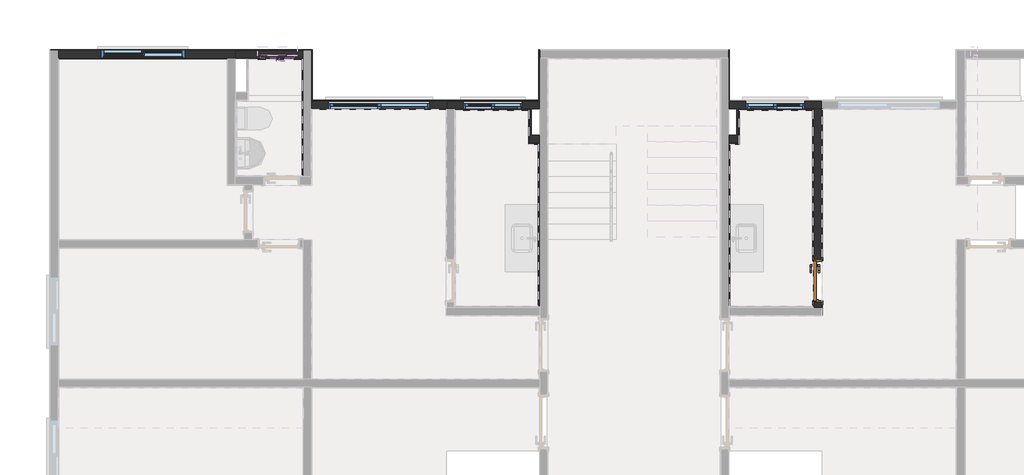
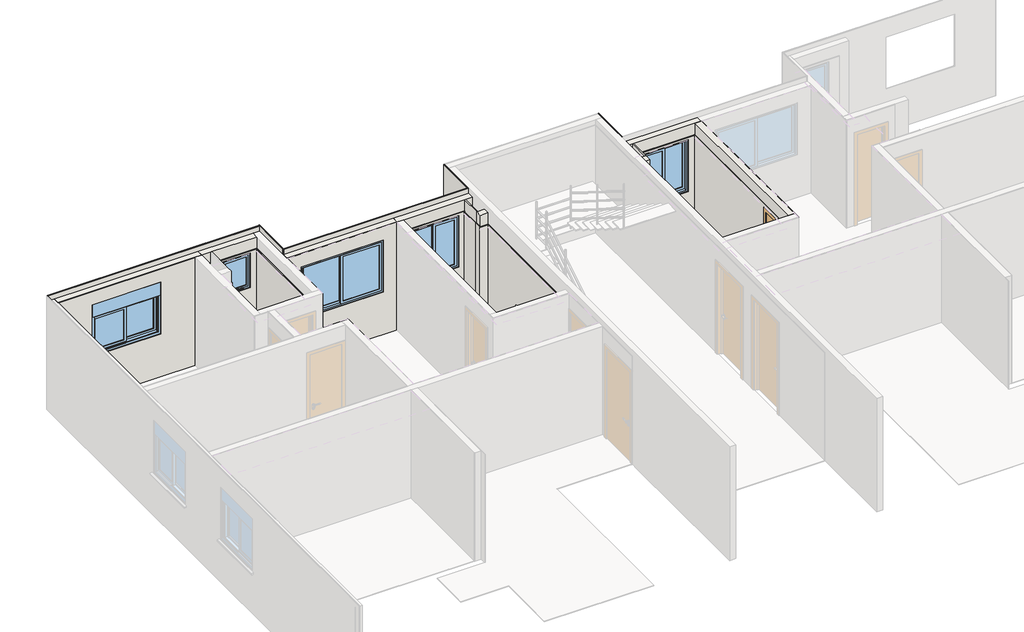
# One storey, part 5 of 9: 31 walls, 5 windows, 1 door.
"""IFC4 building model written with IfcOpenShell, lengths in millimetres."""

from ifc_helpers import new_model, si_unit, frame, origin, place, context, project, spatial, polyline, outline, extrude, faceted_brep, transform, mapped, element, save
from components import porta_de_madeira_interna_70_x_210_porta_de_madeira_interna_f307109d, window_105x120_428ac20c, window_105x120_f2d7c1f1, window_150x120_d34a449e, window_180x120_e659ab7e, window_60x80_6d4336cf

model = new_model("IFC4")

# Units and contexts
model_context = context("Model", 3, world=origin())
ifc_project = project(units=[si_unit("LENGTHUNIT", "METRE", prefix="MILLI")], contexts=[model_context])

# Site, building, storey
site = spatial("IfcSite", under=ifc_project)
building = spatial("IfcBuilding", under=site)
storey = spatial("IfcBuildingStorey", under=building, Name="3º Pavimento", Elevation=5260.0)

# Door
placement = place(None, origin())
porta_de_madeira_interna_70_x_210_porta_de_madeira_interna_shape = porta_de_madeira_interna_70_x_210_porta_de_madeira_interna_f307109d(model_context)
element("IfcDoor", 1, ObjectType="Porta de Madeira Interna 70 x 210 : Porta de Madeira Interna 70 x 210", at=placement, inside=storey, context=model_context, shape_type="MappedRepresentation", body=[
    mapped(porta_de_madeira_interna_70_x_210_porta_de_madeira_interna_shape, transform((13673.8210213, 8221.3603139, 5260.0), x_axis=(0.0, -1.0, 0.0), y_axis=(1.0, 0.0, 0.0), z_axis=(0.0, 0.0, 1.0))),
])

# Walls
element("IfcWall", 2, ObjectType="Alvenaria Estrutural", at=placement, inside=storey, context=model_context, shape_type="Brep", body=[
    faceted_brep([(169.9991825, 12180.0252435, 5260.0), (175.9991825, 12180.0252435, 5260.0), (3179.9977061, 12180.0252435, 5260.0), (3319.9977061, 12180.0252435, 5260.0), (3319.9977061, 12180.0252435, 7770.0), (3179.9977061, 12180.0252435, 7770.0), (175.9991825, 12180.0252435, 7770.0), (169.9991825, 12180.0252435, 7770.0), (2424.9984443, 12180.0252435, 7460.0), (2424.9984443, 12180.0252435, 6260.0), (924.9984443, 12180.0252435, 6260.0), (924.9984443, 12180.0252435, 7460.0), (3319.9977061, 12320.0252435, 5260.0), (169.9991825, 12320.0252435, 5260.0), (169.9991825, 12320.0252435, 7770.0), (3319.9977061, 12320.0252435, 7770.0), (2424.9984443, 12320.0252435, 6260.0), (2424.9984443, 12320.0252435, 7460.0), (924.9984443, 12320.0252435, 7460.0), (924.9984443, 12320.0252435, 6260.0), (874.9984443, 12320.0252435, 6260.0), (874.9984443, 12320.0252435, 6211.3083694), (2474.9984443, 12320.0252435, 6211.3083694), (2474.9984443, 12320.0252435, 6260.0), (2424.9984443, 12222.5252435, 6260.0), (924.9984443, 12222.5252435, 6260.0), (874.9984443, 12222.5252435, 6260.0), (874.9984443, 12222.5252435, 6232.0326341), (2474.9984443, 12222.5252435, 6232.0326341), (2474.9984443, 12222.5252435, 6260.0)], [[[0, 1, 2, 3, 4, 5, 6, 7], [8, 9, 10, 11]], [[12, 13, 14, 15], [16, 17, 18, 19, 20, 21, 22, 23]], [[1, 0, 13, 12, 3, 2]], [[5, 4, 15, 14, 7, 6]], [[9, 8, 17, 16, 24]], [[8, 11, 18, 17]], [[11, 10, 25, 19, 18]], [[10, 9, 24, 25]], [[21, 20, 26, 27]], [[23, 22, 28, 29]], [[25, 24, 29, 28, 27, 26]], [[20, 19, 25, 26]], [[22, 21, 27, 28]], [[4, 3, 12, 15]], [[0, 7, 14, 13]], [[16, 23, 29, 24]]]),
])
element("IfcWall", 3, ObjectType="Alvenaria Estrutural", at=placement, inside=storey, context=model_context, shape_type="Brep", body=[
    faceted_brep([(3319.9977061, 12180.025593, 5260.0), (3516.99398, 12180.025593, 5260.0), (3539.99398, 12180.025593, 5260.0), (4509.9990083, 12180.025593, 5260.0), (4529.9986472, 12180.025593, 5260.0), (4529.9986472, 12180.025593, 7510.0), (4529.9986472, 12180.025593, 7770.0), (3539.99398, 12180.025593, 7770.0), (3516.99398, 12180.025593, 7770.0), (3319.9977061, 12180.025593, 7770.0), (4369.9986472, 12180.025593, 7460.0), (4369.9986472, 12180.025593, 6660.0), (3769.9986472, 12180.025593, 6660.0), (3769.9986472, 12180.025593, 7460.0), (4529.9986472, 12320.025593, 5260.0), (3319.9977061, 12320.025593, 5260.0), (3319.9977061, 12320.025593, 7770.0), (4529.9986472, 12320.025593, 7770.0), (3719.9986472, 12320.025593, 6611.3083694), (4419.9986472, 12320.025593, 6611.3083694), (4419.9986472, 12320.025593, 6660.0), (4369.9986472, 12320.025593, 6660.0), (4369.9986472, 12320.025593, 7460.0), (3769.9986472, 12320.025593, 7460.0), (3769.9986472, 12320.025593, 6660.0), (3719.9986472, 12320.025593, 6660.0), (3719.9986472, 12222.525593, 6660.0), (3719.9986472, 12222.525593, 6632.0326341), (4419.9986472, 12222.525593, 6632.0326341), (4419.9986472, 12222.525593, 6660.0), (3769.9986472, 12222.525593, 6660.0), (4369.9986472, 12222.525593, 6660.0)], [[[0, 1, 2, 3, 4, 5, 6, 7, 8, 9], [10, 11, 12, 13]], [[14, 15, 16, 17], [18, 19, 20, 21, 22, 23, 24, 25]], [[1, 0, 15, 14, 4, 3, 2]], [[7, 6, 17, 16, 9, 8]], [[18, 25, 26, 27]], [[20, 19, 28, 29]], [[27, 26, 30, 31, 29, 28]], [[25, 24, 30, 26]], [[19, 18, 27, 28]], [[11, 10, 22, 21, 31]], [[10, 13, 23, 22]], [[13, 12, 30, 24, 23]], [[12, 11, 31, 30]], [[0, 9, 16, 15]], [[5, 4, 14, 17, 6]], [[21, 20, 29, 31]]]),
])
element("IfcWall", 4, ObjectType="Alvenaria Estrutural", at=placement, inside=storey, context=model_context, shape_type="Brep", body=[
    faceted_brep([(4669.9990083, 11280.0223004, 5260.0), (4675.9990083, 11280.0223004, 5260.0), (7066.9986861, 11280.0223004, 5260.0), (7072.9986861, 11280.0223004, 5260.0), (7079.9990083, 11280.0223004, 5260.0), (7079.9990083, 11280.0223004, 7770.0), (7072.9986861, 11280.0223004, 7770.0), (7066.9986861, 11280.0223004, 7770.0), (4675.9990083, 11280.0223004, 7770.0), (4669.9990083, 11280.0223004, 7770.0), (6774.99925, 11280.0223004, 7460.0), (6774.99925, 11280.0223004, 6260.0), (4974.99925, 11280.0223004, 6260.0), (4974.99925, 11280.0223004, 7460.0), (7079.9990083, 11420.0223004, 5260.0), (4685.9976538, 11420.0223004, 5260.0), (4669.9990083, 11420.0223004, 5260.0), (4669.9990083, 11420.0223004, 7770.0), (7079.9990083, 11420.0223004, 7770.0), (6774.99925, 11420.0223004, 6260.0), (6774.99925, 11420.0223004, 7460.0), (4974.99925, 11420.0223004, 7460.0), (4974.99925, 11420.0223004, 6260.0), (4924.99925, 11420.0223004, 6260.0), (4924.99925, 11420.0223004, 6211.3083694), (6824.99925, 11420.0223004, 6211.3083694), (6824.99925, 11420.0223004, 6260.0), (6774.99925, 11322.5223004, 6260.0), (4974.99925, 11322.5223004, 6260.0), (4924.99925, 11322.5223004, 6260.0), (4924.99925, 11322.5223004, 6232.0326341), (6824.99925, 11322.5223004, 6232.0326341), (6824.99925, 11322.5223004, 6260.0)], [[[0, 1, 2, 3, 4, 5, 6, 7, 8, 9], [10, 11, 12, 13]], [[14, 15, 16, 17, 18], [19, 20, 21, 22, 23, 24, 25, 26]], [[1, 0, 16, 15, 14, 4, 3, 2]], [[5, 4, 14, 18]], [[6, 5, 18, 17, 9, 8, 7]], [[0, 9, 17, 16]], [[11, 10, 20, 19, 27]], [[10, 13, 21, 20]], [[13, 12, 28, 22, 21]], [[12, 11, 27, 28]], [[24, 23, 29, 30]], [[26, 25, 31, 32]], [[28, 27, 32, 31, 30, 29]], [[23, 22, 28, 29]], [[25, 24, 30, 31]], [[19, 26, 32, 27]]]),
])
element("IfcWall", 5, ObjectType="Alvenaria Estrutural", at=placement, inside=storey, context=model_context, shape_type="Brep", body=[
    faceted_brep([(7079.9990083, 11280.0223004, 5260.0), (7212.9986861, 11280.0223004, 5260.0), (7233.0017324, 11280.0223004, 5260.0), (8556.99867, 11280.0223004, 5260.0), (8729.9963008, 11280.0223004, 5260.0), (8729.9963008, 11280.0223004, 7770.0), (7212.9986861, 11280.0223004, 7770.0), (7079.9990083, 11280.0223004, 7770.0), (8424.99921, 11280.0223004, 7460.0), (8424.99921, 11280.0223004, 6260.0), (7374.99921, 11280.0223004, 6260.0), (7374.99921, 11280.0223004, 7460.0), (8729.9963008, 11420.0223004, 5260.0), (7079.9990083, 11420.0223004, 5260.0), (7079.9990083, 11420.0223004, 7770.0), (8729.9963008, 11420.0223004, 7770.0), (8424.99921, 11420.0223004, 6260.0), (8424.99921, 11420.0223004, 7460.0), (7374.99921, 11420.0223004, 7460.0), (7374.99921, 11420.0223004, 6260.0), (7324.99921, 11420.0223004, 6260.0), (7324.99921, 11420.0223004, 6211.3083694), (8474.99921, 11420.0223004, 6211.3083694), (8474.99921, 11420.0223004, 6260.0), (8424.99921, 11322.5223004, 6260.0), (7374.99921, 11322.5223004, 6260.0), (7324.99921, 11322.5223004, 6260.0), (7324.99921, 11322.5223004, 6232.0326341), (8474.99921, 11322.5223004, 6232.0326341), (8474.99921, 11322.5223004, 6260.0)], [[[0, 1, 2, 3, 4, 5, 6, 7], [8, 9, 10, 11]], [[12, 13, 14, 15], [16, 17, 18, 19, 20, 21, 22, 23]], [[1, 0, 13, 12, 4, 3, 2]], [[5, 4, 12, 15]], [[6, 5, 15, 14, 7]], [[0, 7, 14, 13]], [[9, 8, 17, 16, 24]], [[8, 11, 18, 17]], [[11, 10, 25, 19, 18]], [[10, 9, 24, 25]], [[21, 20, 26, 27]], [[23, 22, 28, 29]], [[25, 24, 29, 28, 27, 26]], [[20, 19, 25, 26]], [[22, 21, 27, 28]], [[16, 23, 29, 24]]]),
])
element("IfcWall", 6, ObjectType="Alvenaria Estrutural", at=placement, inside=storey, context=model_context, shape_type="Brep", body=[
    faceted_brep([(8729.9963008, 10815.0073729, 5260.0), (8579.99867, 10815.0073729, 5260.0), (8556.99867, 10815.0073729, 5260.0), (8556.99867, 10815.0073729, 7770.0), (8579.99867, 10815.0073729, 7770.0), (8729.9963008, 10815.0073729, 7770.0), (8729.9963008, 10675.0073729, 5260.0), (8729.9963008, 10675.0073729, 7510.0), (8729.9963008, 10675.0073729, 7770.0), (8556.99867, 10675.0073729, 7770.0), (8556.99867, 10675.0073729, 5260.0), (8709.9963008, 10675.0073729, 5260.0)], [[[0, 1, 2, 3, 4, 5]], [[6, 7, 8, 9, 10, 11]], [[1, 0, 6, 11, 10, 2]], [[4, 3, 9, 8, 5]], [[3, 2, 10, 9]], [[0, 5, 8, 7, 6]]]),
])
element("IfcWall", 7, ObjectType="Alvenaria Estrutural", at=placement, inside=storey, context=model_context, shape_type="Brep", body=[
    faceted_brep([(13739.9956991, 11420.0223004, 5260.0), (12089.9984066, 11420.0223004, 5260.0), (12089.9984066, 11420.0223004, 7770.0), (13739.9956991, 11420.0223004, 7770.0), (12394.9954974, 11420.0223004, 7460.0), (12394.9954974, 11420.0223004, 6260.0), (12344.9954974, 11420.0223004, 6260.0), (12344.9954974, 11420.0223004, 6211.3083694), (13494.9954974, 11420.0223004, 6211.3083694), (13494.9954974, 11420.0223004, 6260.0), (13444.9954974, 11420.0223004, 6260.0), (13444.9954974, 11420.0223004, 7460.0), (12089.9984066, 11280.0223004, 5260.0), (12262.9960374, 11280.0223004, 5260.0), (13586.992975, 11280.0223004, 5260.0), (13606.9960213, 11280.0223004, 5260.0), (13739.9956991, 11280.0223004, 5260.0), (13739.9956991, 11280.0223004, 7770.0), (13606.9960213, 11280.0223004, 7770.0), (12089.9984066, 11280.0223004, 7770.0), (12394.9954974, 11280.0223004, 6260.0), (12394.9954974, 11280.0223004, 7460.0), (13444.9954974, 11280.0223004, 7460.0), (13444.9954974, 11280.0223004, 6260.0), (12394.9954974, 11322.5223004, 6260.0), (13444.9954974, 11322.5223004, 6260.0), (13494.9954974, 11322.5223004, 6232.0326341), (13494.9954974, 11322.5223004, 6260.0), (12344.9954974, 11322.5223004, 6260.0), (12344.9954974, 11322.5223004, 6232.0326341)], [[[0, 1, 2, 3], [4, 5, 6, 7, 8, 9, 10, 11]], [[12, 13, 14, 15, 16, 17, 18, 19], [20, 21, 22, 23]], [[1, 0, 16, 15, 14, 13, 12]], [[2, 1, 12, 19]], [[3, 2, 19, 18, 17]], [[0, 3, 17, 16]], [[5, 4, 21, 20, 24]], [[4, 11, 22, 21]], [[11, 10, 25, 23, 22]], [[20, 23, 25, 24]], [[9, 8, 26, 27]], [[7, 6, 28, 29]], [[24, 25, 27, 26, 29, 28]], [[10, 9, 27, 25]], [[8, 7, 29, 26]], [[6, 5, 24, 28]]]),
])
element("IfcWall", 8, ObjectType="Alvenaria Estrutural", at=placement, inside=storey, context=model_context, shape_type="Brep", body=[
    faceted_brep([(12089.9984066, 10675.0073729, 5260.0), (12109.9984066, 10675.0073729, 5260.0), (12262.9960374, 10675.0073729, 5260.0), (12262.9960374, 10675.0073729, 7770.0), (12089.9984066, 10675.0073729, 7770.0), (12089.9984066, 10675.0073729, 7510.0), (12089.9984066, 10815.0073729, 5260.0), (12089.9984066, 10815.0073729, 7770.0), (12239.9960374, 10815.0073729, 7770.0), (12262.9960374, 10815.0073729, 7770.0), (12262.9960374, 10815.0073729, 5260.0), (12239.9960374, 10815.0073729, 5260.0)], [[[0, 1, 2, 3, 4, 5]], [[6, 7, 8, 9, 10, 11]], [[1, 0, 6, 11, 10, 2]], [[4, 3, 9, 8, 7]], [[3, 2, 10, 9]], [[5, 4, 7, 6, 0]]]),
])
element("IfcWall", 9, ObjectType="Alvenaria Estrutural", at=placement, inside=storey, context=model_context, shape_type="Brep", body=[
    faceted_brep([(13606.9960213, 7746.3603139, 7770.0), (13606.9960213, 11280.0223004, 7770.0), (13606.9960213, 11280.0223004, 7510.0), (13606.9960213, 11280.0223004, 5260.0), (13606.9960213, 11260.0223004, 5260.0), (13606.9960213, 8596.3603139, 5260.0), (13606.9960213, 8596.3603139, 7385.0), (13606.9960213, 7846.3603139, 7385.0), (13606.9960213, 7846.3603139, 5260.0), (13606.9960213, 7766.3603139, 5260.0), (13606.9960213, 7746.3603139, 5260.0), (13606.9960213, 7746.3603139, 7510.0), (13746.9960213, 11280.0223004, 7770.0), (13746.9960213, 11274.0223004, 7770.0), (13746.9960213, 7746.3603139, 7770.0), (13746.9960213, 7746.3603139, 5260.0), (13746.9960213, 7846.3603139, 5260.0), (13746.9960213, 7846.3603139, 7385.0), (13746.9960213, 8596.3603139, 7385.0), (13746.9960213, 8596.3603139, 5260.0), (13746.9960213, 11274.0223004, 5260.0), (13746.9960213, 11280.0223004, 5260.0), (13739.9956991, 11280.0223004, 5260.0), (13739.9956991, 11280.0223004, 7770.0)], [[[0, 1, 2, 3, 4, 5, 6, 7, 8, 9, 10, 11]], [[12, 13, 14, 15, 16, 17, 18, 19, 20, 21]], [[4, 3, 22, 21, 20, 19, 5]], [[1, 0, 14, 13, 12, 23]], [[8, 7, 17, 16]], [[7, 6, 18, 17]], [[6, 5, 19, 18]], [[11, 10, 15, 14, 0]], [[2, 1, 23, 12, 21, 22, 3]], [[9, 8, 16, 15, 10]]]),
])
element("IfcWall", 10, ObjectType="Azulejo", at=placement, inside=storey, context=model_context, shape_type="SweptSolid", body=[
    extrude(outline(polyline([(8709.9963008, 7746.3603139), (8709.9963008, 10675.0073729), (8719.9963008, 10675.0073729), (8719.9963008, 7746.3603139), (8709.9963008, 7746.3603139)])), frame((0.0, 0.0, 5260.0), z_axis=(0.0, 0.0, 1.0), x_axis=(1.0, 0.0, 0.0)), (0.0, 0.0, 1.0), 2250.0),
    extrude(outline(polyline([(8729.9963008, 10675.0073729), (8729.9963008, 7746.3603139), (8719.9963008, 7746.3603139), (8719.9963008, 10675.0073729), (8729.9963008, 10675.0073729)])), frame((0.0, 0.0, 5260.0), z_axis=(0.0, 0.0, 1.0), x_axis=(1.0, 0.0, 0.0)), (0.0, 0.0, 1.0), 2250.0),
])
element("IfcWall", 11, ObjectType="Azulejo", at=placement, inside=storey, context=model_context, shape_type="SolidModel", body=[
    extrude(outline(polyline([(8729.9963008, 10655.0073729), (8536.99631, 10655.0073729), (8536.99631, 10665.0073729), (8729.9963008, 10665.0073729), (8729.9963008, 10655.0073729)])), frame((0.0, 0.0, 5260.0), z_axis=(0.0, 0.0, 1.0), x_axis=(1.0, 0.0, 0.0)), (0.0, 0.0, 1.0), 2250.0),
    faceted_brep([(8546.99631, 10665.0073729, 5260.0), (8729.9963008, 10665.0073729, 5260.0), (8729.9963008, 10665.0073729, 7510.0), (8546.99631, 10665.0073729, 7510.0), (8546.99631, 10675.0073729, 5260.0), (8546.99631, 10675.0073729, 7510.0), (8556.99631, 10675.0073729, 7510.0), (8729.9963008, 10675.0073729, 7510.0), (8729.9963008, 10675.0073729, 5260.0), (8556.99631, 10675.0073729, 5260.0)], [[[0, 1, 2, 3]], [[4, 5, 6, 7, 8, 9]], [[9, 8, 1, 0, 4]], [[6, 5, 3, 2, 7]], [[8, 7, 2, 1]], [[5, 4, 0, 3]]]),
])
element("IfcWall", 12, ObjectType="Azulejo", at=placement, inside=storey, context=model_context, shape_type="SolidModel", body=[
    faceted_brep([(8536.99631, 11260.0223004, 5260.0), (7212.9986861, 11260.0223004, 5260.0), (7212.9986861, 11270.0223004, 5260.0), (8556.99867, 11270.0223004, 5260.0), (8556.99867, 11260.0223004, 5260.0), (8546.99631, 11260.0223004, 5260.0), (8546.99631, 11260.0223004, 7510.0), (8556.99867, 11260.0223004, 7510.0), (8556.99867, 11270.0223004, 7510.0), (7212.9986861, 11270.0223004, 7510.0), (7212.9986861, 11260.0223004, 7510.0), (8536.99631, 11260.0223004, 7510.0), (8424.99921, 11260.0223004, 6260.0), (8424.99921, 11260.0223004, 7460.0), (8424.99921, 11270.0223004, 7460.0), (8424.99921, 11270.0223004, 6260.0), (7374.99921, 11260.0223004, 7460.0), (7374.99921, 11270.0223004, 7460.0), (7374.99921, 11260.0223004, 6260.0), (7374.99921, 11270.0223004, 6260.0)], [[[0, 1, 2, 3, 4, 5]], [[6, 7, 8, 9, 10, 11]], [[12, 13, 14, 15]], [[13, 16, 17, 14]], [[16, 18, 19, 17]], [[18, 12, 15, 19]], [[1, 10, 9, 2]], [[7, 4, 3, 8]], [[3, 2, 9, 8], [15, 14, 17, 19]], [[1, 0, 5, 4, 7, 6, 11, 10], [12, 18, 16, 13]]]),
    extrude(outline(polyline([(5260.0, 7212.9986861), (5260.0, 8556.99867), (7510.0, 8556.99867), (7510.0, 7212.9986861), (5260.0, 7212.9986861)]), holes=[polyline([(7460.0, 8424.99921), (6260.0, 8424.99921), (6260.0, 7374.99921), (7460.0, 7374.99921), (7460.0, 8424.99921)])]), frame((0.0, 11270.0223004, 0.0), z_axis=(0.0, 1.0, 0.0), x_axis=(0.0, 0.0, 1.0)), (0.0, 0.0, 1.0), 10.0),
])
element("IfcWall", 13, ObjectType="Azulejo", at=placement, inside=storey, context=model_context, shape_type="SweptSolid", body=[
    extrude(outline(polyline([(8536.99631, 10665.0073729), (8536.99631, 10815.0073729), (8546.99631, 10815.0073729), (8546.99631, 10665.0073729), (8536.99631, 10665.0073729)])), frame((0.0, 0.0, 5260.0), z_axis=(0.0, 0.0, 1.0), x_axis=(1.0, 0.0, 0.0)), (0.0, 0.0, 1.0), 2250.0),
    extrude(outline(polyline([(8556.99631, 10815.0073729), (8556.99631, 10675.0073729), (8546.99631, 10675.0073729), (8546.99631, 10815.0073729), (8556.99631, 10815.0073729)])), frame((0.0, 0.0, 5260.0), z_axis=(0.0, 0.0, 1.0), x_axis=(1.0, 0.0, 0.0)), (0.0, 0.0, 1.0), 2250.0),
])
element("IfcWall", 14, ObjectType="Azulejo", at=placement, inside=storey, context=model_context, shape_type="SolidModel", body=[
    faceted_brep([(4519.9990083, 10090.0238664, 5260.0), (4509.9990083, 10090.0238664, 5260.0), (4509.9990083, 12160.025593, 5260.0), (4509.9990083, 12170.025593, 5260.0), (4519.9990083, 12170.025593, 5260.0), (4509.9990083, 12160.025593, 7510.0), (4509.9990083, 10090.0238664, 7510.0), (4519.9990083, 10090.0238664, 7510.0), (4519.9990083, 12170.025593, 7510.0), (4509.9990083, 12170.025593, 7510.0)], [[[0, 1, 2, 3, 4]], [[5, 6, 7, 8, 9]], [[1, 0, 7, 6]], [[7, 0, 4, 8]], [[2, 1, 6, 5, 9, 3]], [[4, 3, 9, 8]]]),
    extrude(outline(polyline([(4529.9990083, 12180.025593), (4529.9990083, 10080.0238664), (4519.9990083, 10080.0238664), (4519.9990083, 12180.025593), (4529.9990083, 12180.025593)])), frame((0.0, 0.0, 5260.0), z_axis=(0.0, 0.0, 1.0), x_axis=(1.0, 0.0, 0.0)), (0.0, 0.0, 1.0), 2250.0),
])
element("IfcWall", 15, ObjectType="Azulejo", at=placement, inside=storey, context=model_context, shape_type="SolidModel", body=[
    faceted_brep([(3549.99398, 12160.025593, 5260.0), (3539.99398, 12160.025593, 5260.0), (3539.99398, 12170.025593, 5260.0), (4509.9990083, 12170.025593, 5260.0), (4509.9990083, 12160.025593, 5260.0), (3549.99398, 12160.025593, 7510.0), (4509.9990083, 12160.025593, 7510.0), (4509.9990083, 12170.025593, 7510.0), (3539.99398, 12170.025593, 7510.0), (3539.99398, 12160.025593, 7510.0), (4369.9986472, 12160.025593, 6660.0), (4369.9986472, 12160.025593, 7460.0), (4369.9986472, 12170.025593, 7460.0), (4369.9986472, 12170.025593, 6660.0), (3769.9986472, 12160.025593, 7460.0), (3769.9986472, 12170.025593, 7460.0), (3769.9986472, 12160.025593, 6660.0), (3769.9986472, 12170.025593, 6660.0)], [[[0, 1, 2, 3, 4]], [[5, 6, 7, 8, 9]], [[10, 11, 12, 13]], [[11, 14, 15, 12]], [[14, 16, 17, 15]], [[16, 10, 13, 17]], [[6, 4, 3, 7]], [[1, 9, 8, 2]], [[3, 2, 8, 7], [13, 12, 15, 17]], [[4, 6, 5, 9, 1, 0], [10, 16, 14, 11]]]),
    extrude(outline(polyline([(5260.0, 3539.99398), (5260.0, 4519.9990083), (7510.0, 4519.9990083), (7510.0, 3539.99398), (5260.0, 3539.99398)]), holes=[polyline([(7460.0, 4369.9986472), (6660.0, 4369.9986472), (6660.0, 3769.9986472), (7460.0, 3769.9986472), (7460.0, 4369.9986472)])]), frame((0.0, 12170.025593, 0.0), z_axis=(0.0, 1.0, 0.0), x_axis=(0.0, 0.0, 1.0)), (0.0, 0.0, 1.0), 10.0),
])
element("IfcWall", 16, ObjectType="Azulejo", at=placement, inside=storey, context=model_context, shape_type="SweptSolid", body=[
    extrude(outline(polyline([(7746.3603139, 7510.0), (11280.0223004, 7510.0), (11280.0223004, 5260.0), (8596.3603139, 5260.0), (8596.3603139, 7385.0), (7846.3603139, 7385.0), (7846.3603139, 5260.0), (7746.3603139, 5260.0), (7746.3603139, 7510.0)])), frame((13586.992975, 0.0, 0.0), z_axis=(1.0, 0.0, 0.0), x_axis=(0.0, 1.0, 0.0)), (0.0, 0.0, 1.0), 10.0),
    extrude(outline(polyline([(11280.0223004, 5260.0), (8596.3603139, 5260.0), (8596.3603139, 7385.0), (7846.3603139, 7385.0), (7846.3603139, 5260.0), (7746.3603139, 5260.0), (7746.3603139, 7510.0), (11280.0223004, 7510.0), (11280.0223004, 5260.0)])), frame((13596.992975, 0.0, 0.0), z_axis=(1.0, 0.0, 0.0), x_axis=(0.0, 1.0, 0.0)), (0.0, 0.0, 1.0), 10.0),
])
element("IfcWall", 17, ObjectType="Azulejo", at=placement, inside=storey, context=model_context, shape_type="SweptSolid", body=[
    extrude(outline(polyline([(12109.9984066, 10675.0073729), (12109.9984066, 7746.3603139), (12099.9984066, 7746.3603139), (12099.9984066, 10675.0073729), (12109.9984066, 10675.0073729)])), frame((0.0, 0.0, 5260.0), z_axis=(0.0, 0.0, 1.0), x_axis=(1.0, 0.0, 0.0)), (0.0, 0.0, 1.0), 2250.0),
    extrude(outline(polyline([(12089.9984066, 7746.3603139), (12089.9984066, 10675.0073729), (12099.9984066, 10675.0073729), (12099.9984066, 7746.3603139), (12089.9984066, 7746.3603139)])), frame((0.0, 0.0, 5260.0), z_axis=(0.0, 0.0, 1.0), x_axis=(1.0, 0.0, 0.0)), (0.0, 0.0, 1.0), 2250.0),
])
element("IfcWall", 18, ObjectType="Azulejo", at=placement, inside=storey, context=model_context, shape_type="SolidModel", body=[
    extrude(outline(polyline([(12282.9983974, 10655.0073729), (12089.9984066, 10655.0073729), (12089.9984066, 10665.0073729), (12282.9983974, 10665.0073729), (12282.9983974, 10655.0073729)])), frame((0.0, 0.0, 5260.0), z_axis=(0.0, 0.0, 1.0), x_axis=(1.0, 0.0, 0.0)), (0.0, 0.0, 1.0), 2250.0),
    faceted_brep([(12089.9984066, 10665.0073729, 5260.0), (12272.9983974, 10665.0073729, 5260.0), (12272.9983974, 10665.0073729, 7510.0), (12089.9984066, 10665.0073729, 7510.0), (12272.9983974, 10675.0073729, 5260.0), (12262.9983974, 10675.0073729, 5260.0), (12089.9984066, 10675.0073729, 5260.0), (12089.9984066, 10675.0073729, 7510.0), (12262.9983974, 10675.0073729, 7510.0), (12272.9983974, 10675.0073729, 7510.0)], [[[0, 1, 2, 3]], [[4, 5, 6, 7, 8, 9]], [[5, 4, 1, 0, 6]], [[8, 7, 3, 2, 9]], [[7, 6, 0, 3]], [[4, 9, 2, 1]]]),
])
element("IfcWall", 19, ObjectType="Azulejo", at=placement, inside=storey, context=model_context, shape_type="SolidModel", body=[
    faceted_brep([(12272.9983974, 11260.0223004, 5260.0), (12262.9960374, 11260.0223004, 5260.0), (12262.9960374, 11270.0223004, 5260.0), (13606.9960213, 11270.0223004, 5260.0), (13606.9960213, 11260.0223004, 5260.0), (12282.9983974, 11260.0223004, 5260.0), (12282.9983974, 11260.0223004, 7510.0), (13606.9960213, 11260.0223004, 7510.0), (13606.9960213, 11270.0223004, 7510.0), (12262.9960374, 11270.0223004, 7510.0), (12262.9960374, 11260.0223004, 7510.0), (12272.9983974, 11260.0223004, 7510.0), (12394.9954974, 11260.0223004, 7460.0), (12394.9954974, 11260.0223004, 6260.0), (12394.9954974, 11270.0223004, 6260.0), (12394.9954974, 11270.0223004, 7460.0), (13444.9954974, 11260.0223004, 7460.0), (13444.9954974, 11270.0223004, 7460.0), (13444.9954974, 11260.0223004, 6260.0), (13444.9954974, 11270.0223004, 6260.0)], [[[0, 1, 2, 3, 4, 5]], [[6, 7, 8, 9, 10, 11]], [[12, 13, 14, 15]], [[16, 12, 15, 17]], [[18, 16, 17, 19]], [[13, 18, 19, 14]], [[7, 4, 3, 8]], [[1, 10, 9, 2]], [[3, 2, 9, 8], [15, 14, 19, 17]], [[4, 7, 6, 11, 10, 1, 0, 5], [13, 12, 16, 18]]]),
    extrude(outline(polyline([(5260.0, 12262.9960374), (5260.0, 13606.9960213), (7510.0, 13606.9960213), (7510.0, 12262.9960374), (5260.0, 12262.9960374)]), holes=[polyline([(6260.0, 12394.9954974), (7460.0, 12394.9954974), (7460.0, 13444.9954974), (6260.0, 13444.9954974), (6260.0, 12394.9954974)])]), frame((0.0, 11270.0223004, 0.0), z_axis=(0.0, 1.0, 0.0), x_axis=(0.0, 0.0, 1.0)), (0.0, 0.0, 1.0), 10.0),
])
element("IfcWall", 20, ObjectType="Azulejo", at=placement, inside=storey, context=model_context, shape_type="SweptSolid", body=[
    extrude(outline(polyline([(12282.9983974, 10815.0073729), (12282.9983974, 10665.0073729), (12272.9983974, 10665.0073729), (12272.9983974, 10815.0073729), (12282.9983974, 10815.0073729)])), frame((0.0, 0.0, 5260.0), z_axis=(0.0, 0.0, 1.0), x_axis=(1.0, 0.0, 0.0)), (0.0, 0.0, 1.0), 2250.0),
    extrude(outline(polyline([(12262.9983974, 10675.0073729), (12262.9983974, 10815.0073729), (12272.9983974, 10815.0073729), (12272.9983974, 10675.0073729), (12262.9983974, 10675.0073729)])), frame((0.0, 0.0, 5260.0), z_axis=(0.0, 0.0, 1.0), x_axis=(1.0, 0.0, 0.0)), (0.0, 0.0, 1.0), 2250.0),
])
element("IfcWall", 21, ObjectType="Azulejo - Shaft", at=placement, inside=storey, context=model_context, shape_type="SweptSolid", body=[
    extrude(outline(polyline([(8536.99631, 10815.0073729), (8536.99631, 11260.0223004), (8546.99631, 11260.0223004), (8546.99631, 10815.0073729), (8536.99631, 10815.0073729)])), frame((0.0, 0.0, 5260.0), z_axis=(0.0, 0.0, 1.0), x_axis=(1.0, 0.0, 0.0)), (0.0, 0.0, 1.0), 2250.0),
])
element("IfcWall", 22, ObjectType="Azulejo - Shaft", at=placement, inside=storey, context=model_context, shape_type="SweptSolid", body=[
    extrude(outline(polyline([(12272.9983974, 10815.0073729), (12272.9983974, 11260.0223004), (12282.9983974, 11260.0223004), (12282.9983974, 10815.0073729), (12272.9983974, 10815.0073729)])), frame((0.0, 0.0, 5260.0), z_axis=(0.0, 0.0, 1.0), x_axis=(1.0, 0.0, 0.0)), (0.0, 0.0, 1.0), 2250.0),
])
element("IfcWall", 23, ObjectType="Gesso Liso + Pintura", at=placement, inside=storey, context=model_context, shape_type="SolidModel", body=[
    faceted_brep([(3173.9976538, 12174.0253822, 5260.0), (175.9991825, 12174.0253822, 5260.0), (175.9991825, 12175.0253822, 5260.0), (3174.9976538, 12175.0253822, 5260.0), (3174.9976538, 12174.0253822, 5260.0), (175.9991825, 12175.0253822, 7770.0), (175.9991825, 12174.0253822, 7770.0), (3173.9976538, 12174.0253822, 7770.0), (3174.9976538, 12174.0253822, 7770.0), (3174.9976538, 12175.0253822, 7770.0), (2424.9984443, 12174.0253822, 6260.0), (2424.9984443, 12174.0253822, 7460.0), (2424.9984443, 12175.0253822, 7460.0), (2424.9984443, 12175.0253822, 6260.0), (924.9984443, 12174.0253822, 7460.0), (924.9984443, 12175.0253822, 7460.0), (924.9984443, 12174.0253822, 6260.0), (924.9984443, 12175.0253822, 6260.0)], [[[0, 1, 2, 3, 4]], [[5, 6, 7, 8, 9]], [[10, 11, 12, 13]], [[12, 11, 14, 15]], [[15, 14, 16, 17]], [[10, 13, 17, 16]], [[2, 1, 6, 5]], [[2, 5, 9, 3], [13, 12, 15, 17]], [[1, 0, 4, 8, 7, 6], [11, 10, 16, 14]], [[4, 3, 9, 8]]]),
    extrude(outline(polyline([(5260.0, 174.9991825), (5260.0, 3179.9977061), (7770.0, 3179.9977061), (7770.0, 174.9991825), (5260.0, 174.9991825)]), holes=[polyline([(7460.0, 2424.9984443), (6260.0, 2424.9984443), (6260.0, 924.9984443), (7460.0, 924.9984443), (7460.0, 2424.9984443)])]), frame((0.0, 12175.0253822, 0.0), z_axis=(0.0, 1.0, 0.0), x_axis=(0.0, 0.0, 1.0)), (0.0, 0.0, 1.0), 5.0),
])
element("IfcWall", 24, ObjectType="Gesso Liso + Pintura", at=placement, inside=storey, context=model_context, shape_type="SweptSolid", body=[
    extrude(outline(polyline([(5260.0, 7072.9986861), (7770.0, 7072.9986861), (7770.0, 4669.9986472), (5260.0, 4669.9986472), (5260.0, 7072.9986861)]), holes=[polyline([(6260.0, 6774.99925), (6260.0, 4974.99925), (7460.0, 4974.99925), (7460.0, 6774.99925), (6260.0, 6774.99925)])]), frame((0.0, 11274.0223004, 0.0), z_axis=(0.0, 1.0, 0.0), x_axis=(0.0, 0.0, 1.0)), (0.0, 0.0, 1.0), 1.0),
    extrude(outline(polyline([(5260.0, 4669.9986472), (5260.0, 7072.9986861), (7770.0, 7072.9986861), (7770.0, 4669.9986472), (5260.0, 4669.9986472)]), holes=[polyline([(7460.0, 6774.99925), (6260.0, 6774.99925), (6260.0, 4974.99925), (7460.0, 4974.99925), (7460.0, 6774.99925)])]), frame((0.0, 11275.0223004, 0.0), z_axis=(0.0, 1.0, 0.0), x_axis=(0.0, 0.0, 1.0)), (0.0, 0.0, 1.0), 5.0),
])
element("IfcWall", 25, ObjectType="Gesso Liso + Pintura", at=placement, inside=storey, context=model_context, shape_type="SolidModel", body=[
    extrude(outline(polyline([(7846.3603139, 5260.0), (7601.3603139, 5260.0), (7601.3603139, 7770.0), (11280.0223004, 7770.0), (11280.0223004, 5260.0), (8596.3603139, 5260.0), (8596.3603139, 7385.0), (7846.3603139, 7385.0), (7846.3603139, 5260.0)])), frame((13751.9960213, 0.0, 0.0), z_axis=(1.0, 0.0, 0.0), x_axis=(0.0, 1.0, 0.0)), (0.0, 0.0, 1.0), 1.0),
    faceted_brep([(13751.9960213, 7606.3603139, 5260.0), (13751.9960213, 7846.3603139, 5260.0), (13751.9960213, 7846.3603139, 7385.0), (13751.9960213, 8596.3603139, 7385.0), (13751.9960213, 8596.3603139, 5260.0), (13751.9960213, 11280.0223004, 5260.0), (13751.9960213, 11280.0223004, 7770.0), (13751.9960213, 7606.3603139, 7770.0), (13746.9960213, 7606.3603139, 7770.0), (13746.9960213, 7746.3603139, 7770.0), (13746.9960213, 11280.0223004, 7770.0), (13746.9960213, 11280.0223004, 5260.0), (13746.9960213, 8596.3603139, 5260.0), (13746.9960213, 8596.3603139, 7385.0), (13746.9960213, 7846.3603139, 7385.0), (13746.9960213, 7846.3603139, 5260.0), (13746.9960213, 7746.3603139, 5260.0), (13746.9960213, 7606.3603139, 5260.0)], [[[0, 1, 2, 3, 4, 5, 6, 7]], [[8, 9, 10, 11, 12, 13, 14, 15, 16, 17]], [[16, 15, 1, 0, 17]], [[9, 8, 7, 6, 10]], [[15, 14, 2, 1]], [[14, 13, 3, 2]], [[13, 12, 4, 3]], [[8, 17, 0, 7]], [[11, 10, 6, 5]], [[12, 11, 5, 4]]]),
])
element("IfcWall", 26, ObjectType="Reboco + Pintura Externa", at=placement, inside=storey, context=model_context, shape_type="SolidModel", body=[
    extrude(outline(polyline([(5260.0, 14.9976538), (5260.0, 4685.9976538), (7890.0, 4685.9976538), (7890.0, 14.9976538), (5260.0, 14.9976538)]), holes=[polyline([(7460.0, 2424.9984443), (6260.0, 2424.9984443), (6260.0, 924.9984443), (7460.0, 924.9984443), (7460.0, 2424.9984443)]), polyline([(7460.0, 4369.9986472), (6660.0, 4369.9986472), (6660.0, 3769.9986472), (7460.0, 3769.9986472), (7460.0, 4369.9986472)])]), frame((0.0, 12334.9952456, 0.0), z_axis=(0.0, 1.0, 0.0), x_axis=(0.0, 0.0, 1.0)), (0.0, 0.0, 1.0), 1.0),
    faceted_brep([(4674.9976538, 12324.9952456, 5260.0), (29.9976538, 12324.9952456, 5260.0), (29.9976538, 12324.9952456, 7890.0), (4674.9976538, 12324.9952456, 7890.0), (2424.9984443, 12324.9952456, 6260.0), (2424.9984443, 12324.9952456, 7460.0), (924.9984443, 12324.9952456, 7460.0), (924.9984443, 12324.9952456, 6260.0), (4369.9986472, 12324.9952456, 6660.0), (4369.9986472, 12324.9952456, 7460.0), (3769.9986472, 12324.9952456, 7460.0), (3769.9986472, 12324.9952456, 6660.0), (3319.9977061, 12319.9952456, 5260.0), (29.9976538, 12319.9952456, 5260.0), (4674.9976538, 12319.9952456, 5260.0), (4669.9976538, 12319.9952456, 5260.0), (4529.9986472, 12319.9952456, 5260.0), (4669.9976538, 12319.9952456, 7890.0), (4674.9976538, 12319.9952456, 7890.0), (29.9976538, 12319.9952456, 7890.0), (4369.9986472, 12319.9952456, 6660.0), (4369.9986472, 12319.9952456, 7460.0), (3769.9986472, 12319.9952456, 7460.0), (3769.9986472, 12319.9952456, 6660.0), (2424.9984443, 12319.9952456, 6260.0), (2424.9984443, 12319.9952456, 7460.0), (924.9984443, 12319.9952456, 7460.0), (924.9984443, 12319.9952456, 6260.0)], [[[0, 1, 2, 3], [4, 5, 6, 7], [8, 9, 10, 11]], [[12, 13, 1, 0, 14, 15, 16]], [[17, 18, 3, 2, 19]], [[20, 21, 9, 8]], [[21, 22, 10, 9]], [[22, 23, 11, 10]], [[23, 20, 8, 11]], [[24, 25, 5, 4]], [[25, 26, 6, 5]], [[26, 27, 7, 6]], [[27, 24, 4, 7]], [[13, 19, 2, 1]], [[13, 12, 16, 15, 14, 18, 17, 19], [20, 23, 22, 21], [24, 27, 26, 25]], [[18, 14, 0, 3]]]),
    extrude(outline(polyline([(5260.0, 24.9976538), (5260.0, 4684.9976538), (7890.0, 4684.9976538), (7890.0, 24.9976538), (5260.0, 24.9976538)]), holes=[polyline([(7460.0, 2424.9984443), (6260.0, 2424.9984443), (6260.0, 924.9984443), (7460.0, 924.9984443), (7460.0, 2424.9984443)]), polyline([(7460.0, 4369.9986472), (6660.0, 4369.9986472), (6660.0, 3769.9986472), (7460.0, 3769.9986472), (7460.0, 4369.9986472)])]), frame((0.0, 12324.9952456, 0.0), z_axis=(0.0, 1.0, 0.0), x_axis=(0.0, 0.0, 1.0)), (0.0, 0.0, 1.0), 10.0),
])
element("IfcWall", 27, ObjectType="Reboco + Pintura Externa", at=placement, inside=storey, context=model_context, shape_type="SolidModel", body=[
    extrude(outline(polyline([(4685.9976538, 12334.9952456), (4685.9976538, 11420.0223004), (4684.9976538, 11420.0223004), (4684.9976538, 12334.9952456), (4685.9976538, 12334.9952456)])), frame((0.0, 0.0, 5260.0), z_axis=(0.0, 0.0, 1.0), x_axis=(1.0, 0.0, 0.0)), (0.0, 0.0, 1.0), 2630.0),
    faceted_brep([(4674.9976538, 11420.0223004, 5260.0), (4674.9976538, 12319.9952456, 5260.0), (4674.9976538, 12319.9952456, 7890.0), (4674.9976538, 11420.0223004, 7890.0), (4669.9976538, 11420.0223004, 5260.0), (4669.9976538, 12319.9952456, 5260.0), (4669.9976538, 12319.9952456, 7890.0), (4669.9976538, 11420.0223004, 7890.0), (4669.9976538, 11420.0223004, 7770.0)], [[[0, 1, 2, 3]], [[4, 5, 1, 0]], [[6, 7, 3, 2]], [[5, 6, 2, 1]], [[8, 4, 0, 3, 7]], [[5, 4, 8, 7, 6]]]),
    extrude(outline(polyline([(4674.9976538, 12324.9952456), (4684.9976538, 12324.9952456), (4684.9976538, 11420.0223004), (4674.9976538, 11420.0223004), (4674.9976538, 12324.9952456)])), frame((0.0, 0.0, 5260.0), z_axis=(0.0, 0.0, 1.0), x_axis=(1.0, 0.0, 0.0)), (0.0, 0.0, 1.0), 2630.0),
])
element("IfcWall", 28, ObjectType="Reboco + Pintura Externa", at=placement, inside=storey, context=model_context, shape_type="Brep", body=[
    faceted_brep([(6774.99925, 11435.0223004, 6260.0), (6774.99925, 11435.0223004, 7460.0), (6774.99925, 11436.0223004, 7460.0), (6774.99925, 11436.0223004, 6260.0), (4974.99925, 11435.0223004, 6260.0), (4974.99925, 11436.0223004, 6260.0), (4974.99925, 11435.0223004, 7460.0), (4974.99925, 11436.0223004, 7460.0), (8424.99921, 11435.0223004, 6260.0), (8424.99921, 11435.0223004, 7460.0), (8424.99921, 11436.0223004, 7460.0), (8424.99921, 11436.0223004, 6260.0), (7374.99921, 11435.0223004, 6260.0), (7374.99921, 11436.0223004, 6260.0), (7374.99921, 11435.0223004, 7460.0), (7374.99921, 11436.0223004, 7460.0), (4669.9986472, 11435.0223004, 5260.0), (4669.9986472, 11436.0223004, 5260.0), (8713.9963008, 11436.0223004, 5260.0), (8714.9963008, 11436.0223004, 5260.0), (8714.9963008, 11435.0223004, 5260.0), (4669.9986472, 11435.0223004, 7770.0), (4669.9986472, 11435.0223004, 7890.0), (4669.9986472, 11436.0223004, 7890.0), (4669.9986472, 11436.0223004, 7770.0), (8714.9963008, 11435.0223004, 7770.0), (8714.9963008, 11435.0223004, 7890.0), (8713.9963008, 11436.0223004, 7890.0), (8714.9963008, 11436.0223004, 7890.0), (8714.9963008, 11436.0223004, 7770.0)], [[[0, 1, 2, 3]], [[4, 0, 3, 5]], [[6, 4, 5, 7]], [[1, 6, 7, 2]], [[8, 9, 10, 11]], [[12, 8, 11, 13]], [[14, 12, 13, 15]], [[9, 14, 15, 10]], [[16, 17, 18, 19, 20]], [[16, 21, 22, 23, 24, 17]], [[21, 16, 20, 25, 26, 22], [1, 0, 4, 6], [9, 8, 12, 14]], [[18, 17, 24, 23, 27, 28, 29, 19], [3, 2, 7, 5], [11, 10, 15, 13]], [[25, 20, 19, 29, 28, 26]], [[22, 26, 28, 27, 23]]]),
    faceted_brep([(8729.9963008, 11425.0223004, 5260.0), (4669.9986472, 11425.0223004, 5260.0), (4669.9986472, 11425.0223004, 7770.0), (4669.9986472, 11425.0223004, 7890.0), (8729.9963008, 11425.0223004, 7890.0), (8729.9963008, 11425.0223004, 7770.0), (8424.99921, 11425.0223004, 6260.0), (8424.99921, 11425.0223004, 7460.0), (7374.99921, 11425.0223004, 7460.0), (7374.99921, 11425.0223004, 6260.0), (6774.99925, 11425.0223004, 6260.0), (6774.99925, 11425.0223004, 7460.0), (4974.99925, 11425.0223004, 7460.0), (4974.99925, 11425.0223004, 6260.0), (6774.99925, 11420.0223004, 6260.0), (6774.99925, 11420.0223004, 7460.0), (4974.99925, 11420.0223004, 6260.0), (4974.99925, 11420.0223004, 7460.0), (8424.99921, 11420.0223004, 6260.0), (8424.99921, 11420.0223004, 7460.0), (7374.99921, 11420.0223004, 6260.0), (7374.99921, 11420.0223004, 7460.0), (8729.9963008, 11420.0223004, 5260.0), (7079.9990083, 11420.0223004, 5260.0), (4669.9986472, 11420.0223004, 5260.0), (8729.9963008, 11420.0223004, 7890.0), (8729.9963008, 11420.0223004, 7770.0), (4669.9986472, 11420.0223004, 7770.0), (4669.9986472, 11420.0223004, 7890.0)], [[[0, 1, 2, 3, 4, 5], [6, 7, 8, 9], [10, 11, 12, 13]], [[11, 10, 14, 15]], [[10, 13, 16, 14]], [[13, 12, 17, 16]], [[12, 11, 15, 17]], [[7, 6, 18, 19]], [[6, 9, 20, 18]], [[9, 8, 21, 20]], [[8, 7, 19, 21]], [[1, 0, 22, 23, 24]], [[0, 5, 4, 25, 26, 22]], [[2, 1, 24, 27, 28, 3]], [[24, 23, 22, 26, 25, 28, 27], [15, 14, 16, 17], [19, 18, 20, 21]], [[4, 3, 28, 25]]]),
    faceted_brep([(4669.9986472, 11425.0223004, 5260.0), (8729.9963008, 11425.0223004, 5260.0), (8729.9963008, 11425.0223004, 7770.0), (8729.9963008, 11425.0223004, 7890.0), (4669.9986472, 11425.0223004, 7890.0), (4669.9986472, 11425.0223004, 7770.0), (8424.99921, 11425.0223004, 7460.0), (8424.99921, 11425.0223004, 6260.0), (7374.99921, 11425.0223004, 6260.0), (7374.99921, 11425.0223004, 7460.0), (6774.99925, 11425.0223004, 7460.0), (6774.99925, 11425.0223004, 6260.0), (4974.99925, 11425.0223004, 6260.0), (4974.99925, 11425.0223004, 7460.0), (6774.99925, 11435.0223004, 7460.0), (6774.99925, 11435.0223004, 6260.0), (4974.99925, 11435.0223004, 6260.0), (4974.99925, 11435.0223004, 7460.0), (8424.99921, 11435.0223004, 7460.0), (8424.99921, 11435.0223004, 6260.0), (7374.99921, 11435.0223004, 6260.0), (7374.99921, 11435.0223004, 7460.0), (4669.9986472, 11435.0223004, 5260.0), (8729.9963008, 11435.0223004, 5260.0), (8729.9963008, 11435.0223004, 7770.0), (8729.9963008, 11435.0223004, 7890.0), (4669.9986472, 11435.0223004, 7890.0), (4669.9986472, 11435.0223004, 7770.0)], [[[0, 1, 2, 3, 4, 5], [6, 7, 8, 9], [10, 11, 12, 13]], [[11, 10, 14, 15]], [[12, 11, 15, 16]], [[13, 12, 16, 17]], [[10, 13, 17, 14]], [[7, 6, 18, 19]], [[8, 7, 19, 20]], [[9, 8, 20, 21]], [[6, 9, 21, 18]], [[1, 0, 22, 23]], [[2, 1, 23, 24, 25, 3]], [[0, 5, 4, 26, 27, 22]], [[23, 22, 27, 26, 25, 24], [15, 14, 17, 16], [19, 18, 21, 20]], [[4, 3, 25, 26]]]),
])
element("IfcWall", 29, ObjectType="Reboco + Pintura Externa", at=placement, inside=storey, context=model_context, shape_type="SolidModel", body=[
    extrude(outline(polyline([(8713.9963008, 11436.0223004), (8713.9963008, 12335.9995833), (8714.9963008, 12335.9995833), (8714.9963008, 11436.0223004), (8713.9963008, 11436.0223004)])), frame((0.0, 0.0, 5260.0), z_axis=(0.0, 0.0, 1.0), x_axis=(1.0, 0.0, 0.0)), (0.0, 0.0, 1.0), 2630.0),
    faceted_brep([(8724.9963008, 12324.9995833, 5260.0), (8724.9963008, 11435.0223004, 5260.0), (8724.9963008, 11435.0223004, 7890.0), (8724.9963008, 12324.9995833, 7890.0), (8729.9963008, 12319.9995833, 5260.0), (8729.9963008, 11435.0223004, 5260.0), (8729.9963008, 12324.9995833, 5260.0), (8729.9963008, 12319.9995833, 7890.0), (8729.9963008, 12324.9995833, 7890.0), (8729.9963008, 11435.0223004, 7890.0)], [[[0, 1, 2, 3]], [[4, 5, 1, 0, 6]], [[7, 8, 3, 2, 9]], [[5, 4, 6, 8, 7, 9]], [[5, 9, 2, 1]], [[8, 6, 0, 3]]]),
    extrude(outline(polyline([(8724.9963008, 11435.0223004), (8714.9963008, 11435.0223004), (8714.9963008, 12334.9995833), (8724.9963008, 12334.9995833), (8724.9963008, 11435.0223004)])), frame((0.0, 0.0, 5260.0), z_axis=(0.0, 0.0, 1.0), x_axis=(1.0, 0.0, 0.0)), (0.0, 0.0, 1.0), 2630.0),
])
element("IfcWall", 30, ObjectType="Reboco + Pintura Externa", at=placement, inside=storey, context=model_context, shape_type="SweptSolid", body=[
    extrude(outline(polyline([(12105.9984066, 12334.9995833), (12105.9984066, 11436.0223004), (12104.9984066, 11436.0223004), (12104.9984066, 12334.9995833), (12105.9984066, 12334.9995833)])), frame((0.0, 0.0, 5260.0), z_axis=(0.0, 0.0, 1.0), x_axis=(1.0, 0.0, 0.0)), (0.0, 0.0, 1.0), 2630.0),
    extrude(outline(polyline([(12089.9984066, 11435.0223004), (12089.9984066, 12319.9995833), (12094.9984066, 12319.9995833), (12094.9984066, 11435.0223004), (12089.9984066, 11435.0223004)])), frame((0.0, 0.0, 5260.0), z_axis=(0.0, 0.0, 1.0), x_axis=(1.0, 0.0, 0.0)), (0.0, 0.0, 1.0), 2630.0),
    extrude(outline(polyline([(12094.9984066, 12324.9995833), (12104.9984066, 12324.9995833), (12104.9984066, 11435.0223004), (12094.9984066, 11435.0223004), (12094.9984066, 12324.9995833)])), frame((0.0, 0.0, 5260.0), z_axis=(0.0, 0.0, 1.0), x_axis=(1.0, 0.0, 0.0)), (0.0, 0.0, 1.0), 2630.0),
])
element("IfcWall", 31, ObjectType="Shaft Drywall", at=placement, inside=storey, context=model_context, shape_type="Brep", body=[
    faceted_brep([(8556.99867, 11280.0223004, 5260.0), (8556.99867, 11260.0223004, 5260.0), (8556.99867, 10815.0073729, 5260.0), (8556.99867, 10815.0073729, 7770.0), (8556.99867, 11280.0223004, 7770.0), (8556.99867, 11280.0223004, 7510.0), (8579.99867, 11280.0223004, 5260.0), (8579.99867, 11280.0223004, 7770.0), (8579.99867, 10815.0073729, 7770.0), (8579.99867, 10815.0073729, 5260.0)], [[[0, 1, 2, 3, 4, 5]], [[6, 7, 8, 9]], [[1, 0, 6, 9, 2]], [[4, 3, 8, 7]], [[5, 4, 7, 6, 0]], [[3, 2, 9, 8]]]),
])
element("IfcWall", 32, ObjectType="Shaft Drywall", at=placement, inside=storey, context=model_context, shape_type="Brep", body=[
    faceted_brep([(12239.9960374, 11280.0223004, 5260.0), (12239.9960374, 10815.0073729, 5260.0), (12239.9960374, 10815.0073729, 7770.0), (12239.9960374, 11280.0223004, 7770.0), (12262.9960374, 11280.0223004, 5260.0), (12262.9960374, 11280.0223004, 7510.0), (12262.9960374, 11280.0223004, 7770.0), (12262.9960374, 10815.0073729, 7770.0), (12262.9960374, 10815.0073729, 5260.0), (12262.9960374, 11260.0223004, 5260.0)], [[[0, 1, 2, 3]], [[4, 5, 6, 7, 8, 9]], [[1, 0, 4, 9, 8]], [[3, 2, 7, 6]], [[0, 3, 6, 5, 4]], [[2, 1, 8, 7]]]),
])

# Windows
window_105x120_shape = window_105x120_428ac20c(model_context)
element("IfcWindow", 33, ObjectType="Janela de correr - 2 Painéis : 105x120", at=placement, inside=storey, context=model_context, shape_type="MappedRepresentation", body=[
    mapped(window_105x120_shape, transform((7899.99921, 11350.0223004, 5610.0), x_axis=(-1.0, 0.0, 0.0), y_axis=(0.0, -1.0, 0.0), z_axis=(0.0, 0.0, 1.0))),
])
window_105x120_2_shape = window_105x120_f2d7c1f1(model_context)
element("IfcWindow", 34, ObjectType="Janela de correr - 2 Painéis : 105x120", at=placement, inside=storey, context=model_context, shape_type="MappedRepresentation", body=[
    mapped(window_105x120_2_shape, transform((12919.9954974, 11350.0223004, 5610.0), x_axis=(1.0, 0.0, 0.0), y_axis=(0.0, 1.0, 0.0), z_axis=(0.0, 0.0, 1.0))),
])
window_150x120_shape = window_150x120_d34a449e(model_context)
element("IfcWindow", 35, ObjectType="Veneziana - 2 Painéis : 150x120", at=placement, inside=storey, context=model_context, shape_type="MappedRepresentation", body=[
    mapped(window_150x120_shape, transform((1674.9984443, 12250.0252435, 5610.0), x_axis=(-1.0, 0.0, 0.0), y_axis=(0.0, -1.0, 0.0), z_axis=(0.0, 0.0, 1.0))),
])
window_180x120_shape = window_180x120_e659ab7e(model_context)
element("IfcWindow", 36, ObjectType="Janela de correr - 2 Painéis : 180x120", at=placement, inside=storey, context=model_context, shape_type="MappedRepresentation", body=[
    mapped(window_180x120_shape, transform((5874.99925, 11350.0223004, 5610.0), x_axis=(-1.0, 0.0, 0.0), y_axis=(0.0, -1.0, 0.0), z_axis=(0.0, 0.0, 1.0))),
])
window_60x80_shape = window_60x80_6d4336cf(model_context)
element("IfcWindow", 37, ObjectType="Janela Maxim-ar : 60x80", at=placement, inside=storey, context=model_context, shape_type="MappedRepresentation", body=[
    mapped(window_60x80_shape, transform((4069.9986472, 12250.025593, 6010.0), x_axis=(-1.0, 0.0, 0.0), y_axis=(0.0, -1.0, 0.0), z_axis=(0.0, 0.0, 1.0))),
])

save(model, "model.ifc")
